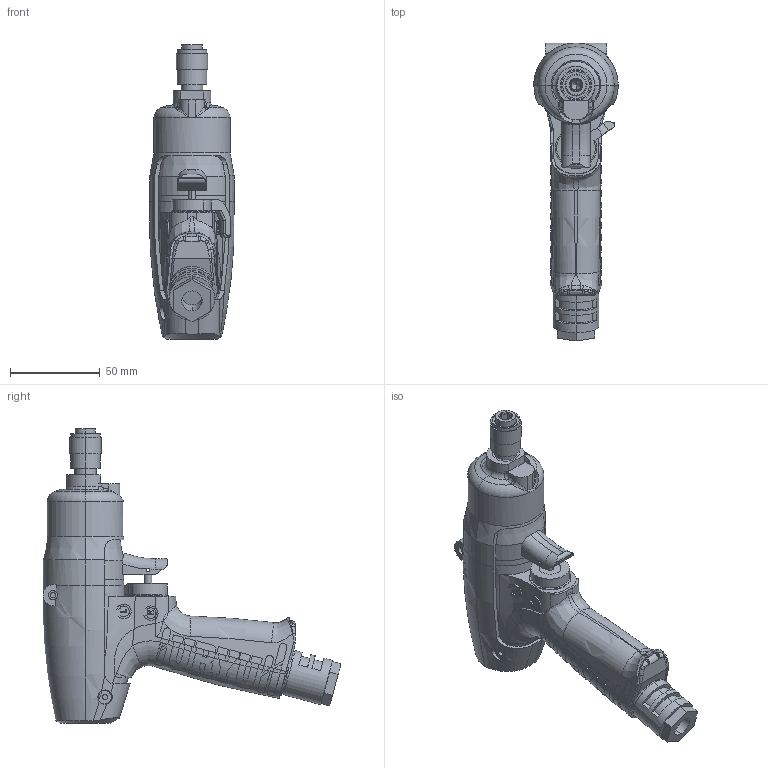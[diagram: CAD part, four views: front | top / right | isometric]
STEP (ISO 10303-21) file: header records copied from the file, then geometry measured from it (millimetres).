
FILE_DESCRIPTION (( 'STEP AP203' ), '1' );
FILE_NAME ('UAT30D.STEP', '2015-07-21T08:07:51', ( '' ), ( '' ), 'SwSTEP 2.0', 'SolidWorks 2014', '' );
FILE_SCHEMA (( 'CONFIG_CONTROL_DESIGN' ));
Length unit declared in the file: millimetre
Products named in the file (10): 1458407_ULT30D; 0113511_ULT30D; 9810020_ULT30D; 1443500_ULT30D; UAT30D; 1444390_ULT30D; 1440250_UAT30D; 4802128_ULT30D; 1471072_ULT30D; 1478422_UAT30D
Assembly tree (9 placements, depth 2):
  UAT30D
    1443500_ULT30D
    1444390_ULT30D
    1440250_UAT30D
    4802128_ULT30D
    1471072_ULT30D
    1478422_UAT30D
    1458407_ULT30D
    0113511_ULT30D
    9810020_ULT30D
Bounding box: 47 x 165.96 x 164 mm (x, y, z)
Volume: 301322.8 mm3; surface area: 91029.7 mm2
Topology: 9 solids, 9 shells, 1285 faces, 3574 edges, 2332 vertices
Faces by surface type: plane 740, cylinder 239, bspline 219, torus 57, cone 28, sphere 2
Entity records: 61298 total; most frequent: CARTESIAN_POINT 30722, ORIENTED_EDGE 7130, DIRECTION 4713, EDGE_CURVE 3565, VERTEX_POINT 2329, AXIS2_PLACEMENT_3D 1594, LINE 1525, VECTOR 1525
